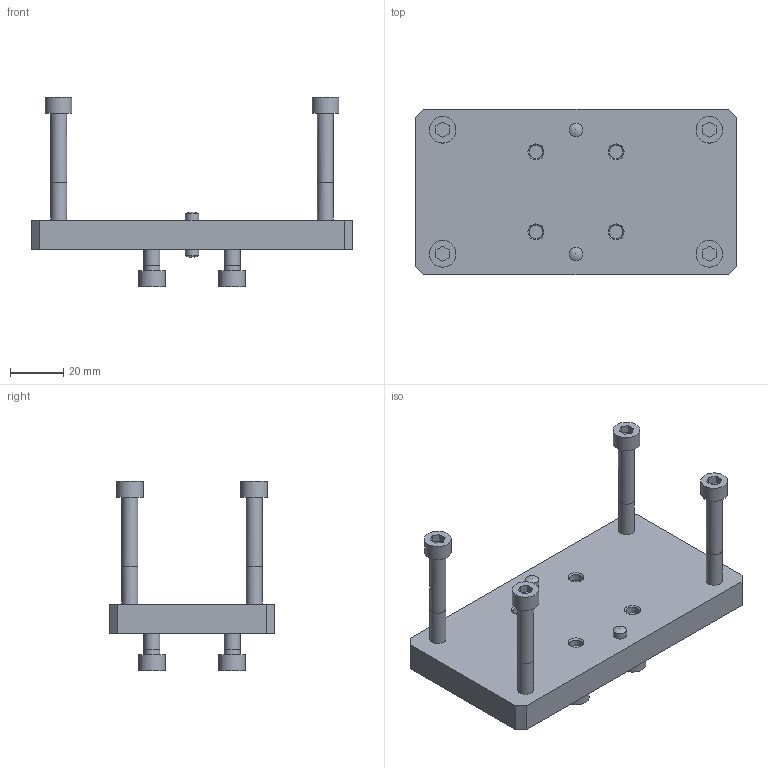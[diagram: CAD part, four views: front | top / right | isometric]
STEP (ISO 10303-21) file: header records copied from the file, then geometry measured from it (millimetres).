
FILE_DESCRIPTION( ( 'STEP AP214' ), '1' );
FILE_NAME( 'U:/Etudes/Top Solid/BIBLIO 3D AVM/STEP/N_ELECTRIQUE/Linéaires/Accessoires/8319116.step', '2006-07-05T10:01:11', ( ' ' ), ( ' ' ), 'XStep 1.0', ' ', ' ' );
FILE_SCHEMA( ( 'automotive_design' ) );
Length unit declared in the file: metre
Products named in the file (1): 1
Bounding box: 120 x 62 x 71 mm (x, y, z)
Volume: 90203.7 mm3; surface area: 25595 mm2
Topology: 1 solids, 5 shells, 150 faces, 336 edges, 224 vertices
Faces by surface type: plane 94, cylinder 40, cone 12, bspline 4
Full cylindrical faces by diameter (mm): 4.918 x8, 5 x8, 6 x16, 10 x8
Entity records: 5204 total; most frequent: CARTESIAN_POINT 975, DIRECTION 614, ORIENTED_EDGE 504, EDGE_CURVE 252, EDGE_LOOP 242, AXIS2_PLACEMENT_3D 223, VERTEX_POINT 200, FACE_OUTER_BOUND 190
